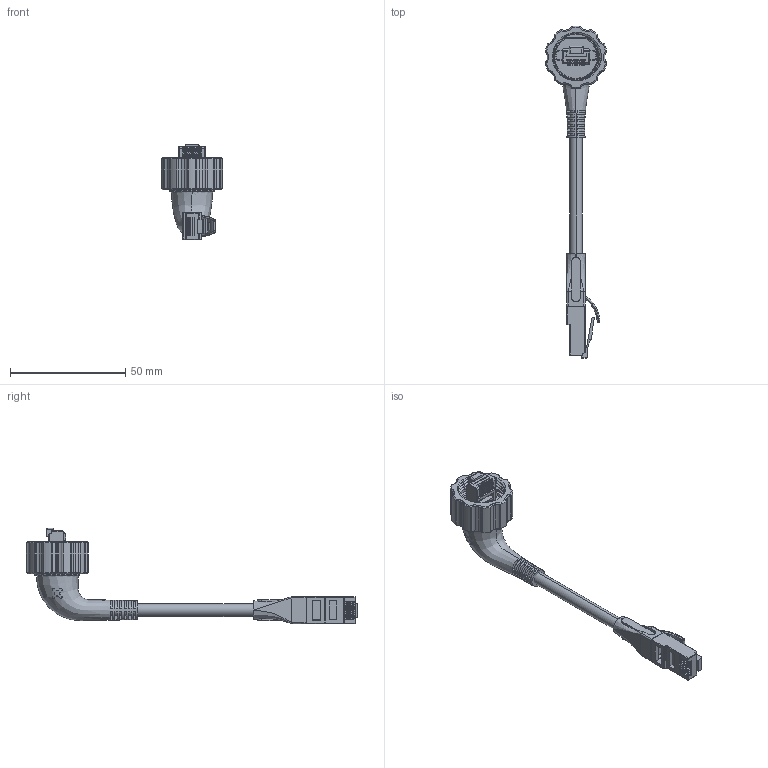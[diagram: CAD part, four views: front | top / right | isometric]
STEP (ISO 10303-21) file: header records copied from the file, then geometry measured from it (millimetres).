
FILE_DESCRIPTION (( 'STEP AP203' ), '1' );
FILE_NAME ('TXF_M22W_RJ45_xx.step', '2023-10-10T17:31:12', ( '' ), ( '' ), 'SwSTEP 2.0', 'SolidWorks 2019', '' );
FILE_SCHEMA (( 'CONFIG_CONTROL_DESIGN' ));
Length unit declared in the file: millimetre
Products named in the file (1): TXF_M22W_RJ45_xx
Bounding box: 26.64 x 144 x 41.35 mm (x, y, z)
Volume: 14843.4 mm3; surface area: 11620.6 mm2
Topology: 2 solids, 2 shells, 1142 faces, 3229 edges, 2032 vertices
Faces by surface type: plane 585, cylinder 287, cone 203, bspline 31, torus 28, sphere 8
Entity records: 43747 total; most frequent: CARTESIAN_POINT 14847, ORIENTED_EDGE 6344, DIRECTION 5616, EDGE_CURVE 3172, VERTEX_POINT 2032, LINE 1912, VECTOR 1912, AXIS2_PLACEMENT_3D 1852
